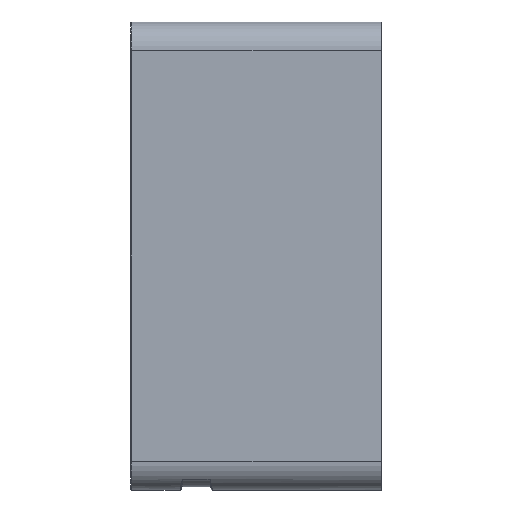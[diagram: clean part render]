
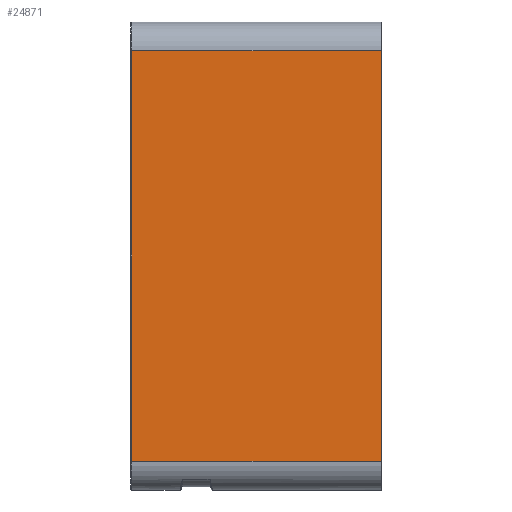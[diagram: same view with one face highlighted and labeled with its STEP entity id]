
A CAD part, left-side view. The second image highlights one B-rep face of the part: STEP entity #24871.
In plain terms, the highlighted planar face has unit normal (-1, 0, 0).
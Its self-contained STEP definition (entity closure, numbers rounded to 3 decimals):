
#784 = VERTEX_POINT ( 'NONE', #12371 ) ;
#881 = DIRECTION ( 'NONE',  ( 0., 0., 1. ) ) ;
#3707 = LINE ( 'NONE', #9035, #13245 ) ;
#3763 = EDGE_CURVE ( 'NONE', #4020, #15017, #15695, .T. ) ;
#4020 = VERTEX_POINT ( 'NONE', #22454 ) ;
#4838 = EDGE_LOOP ( 'NONE', ( #12066, #9522, #11511, #15487 ) ) ;
#6580 = CARTESIAN_POINT ( 'NONE',  ( -419.1, -1., -200.6 ) ) ;
#8583 = LINE ( 'NONE', #14091, #13197 ) ;
#9035 = CARTESIAN_POINT ( 'NONE',  ( -419.1, -245., -228.6 ) ) ;
#9522 = ORIENTED_EDGE ( 'NONE', *, *, #17673, .T. ) ;
#11499 = CARTESIAN_POINT ( 'NONE',  ( -419.1, -245., 200.6 ) ) ;
#11511 = ORIENTED_EDGE ( 'NONE', *, *, #3763, .T. ) ;
#12066 = ORIENTED_EDGE ( 'NONE', *, *, #17598, .T. ) ;
#12371 = CARTESIAN_POINT ( 'NONE',  ( -419.1, -1., 200.6 ) ) ;
#12802 = DIRECTION ( 'NONE',  ( 0., 0., 1. ) ) ;
#13197 = VECTOR ( 'NONE', #18762, 1000. ) ;
#13245 = VECTOR ( 'NONE', #881, 1000. ) ;
#14091 = CARTESIAN_POINT ( 'NONE',  ( -419.1, -245., 200.6 ) ) ;
#15017 = VERTEX_POINT ( 'NONE', #32135 ) ;
#15487 = ORIENTED_EDGE ( 'NONE', *, *, #19214, .T. ) ;
#15613 = FACE_OUTER_BOUND ( 'NONE', #4838, .T. ) ;
#15695 = LINE ( 'NONE', #20875, #32414 ) ;
#16360 = VERTEX_POINT ( 'NONE', #11499 ) ;
#16777 = DIRECTION ( 'NONE',  ( 0., 0., -1. ) ) ;
#17598 = EDGE_CURVE ( 'NONE', #16360, #784, #8583, .T. ) ;
#17673 = EDGE_CURVE ( 'NONE', #784, #4020, #31950, .T. ) ;
#18762 = DIRECTION ( 'NONE',  ( 0., 1., 0. ) ) ;
#19214 = EDGE_CURVE ( 'NONE', #15017, #16360, #3707, .T. ) ;
#20579 = AXIS2_PLACEMENT_3D ( 'NONE', #28623, #21105, #12802 ) ;
#20875 = CARTESIAN_POINT ( 'NONE',  ( -419.1, -245., -200.6 ) ) ;
#21105 = DIRECTION ( 'NONE',  ( -1., 0., 0. ) ) ;
#22454 = CARTESIAN_POINT ( 'NONE',  ( -419.1, -1., -200.6 ) ) ;
#23291 = PLANE ( 'NONE',  #20579 ) ;
#24871 = ADVANCED_FACE ( 'NONE', ( #15613 ), #23291, .T. ) ;
#28623 = CARTESIAN_POINT ( 'NONE',  ( -419.1, -245., -228.6 ) ) ;
#31029 = DIRECTION ( 'NONE',  ( 0., -1., 0. ) ) ;
#31950 = LINE ( 'NONE', #6580, #32926 ) ;
#32135 = CARTESIAN_POINT ( 'NONE',  ( -419.1, -245., -200.6 ) ) ;
#32414 = VECTOR ( 'NONE', #31029, 1000. ) ;
#32926 = VECTOR ( 'NONE', #16777, 1000. ) ;
